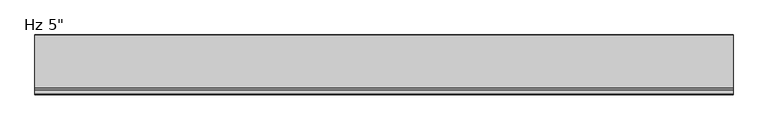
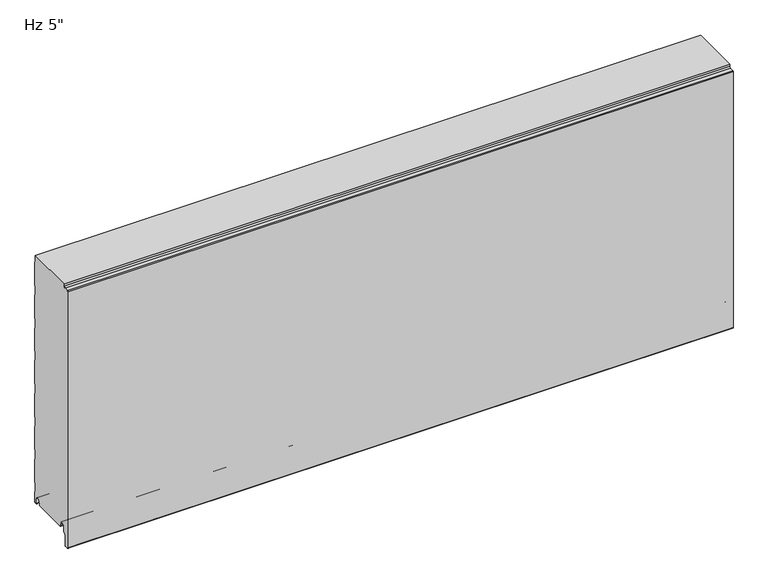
"""IFC4 building model written with IfcOpenShell, lengths in millimetres: plate geometry."""

from ifc_helpers import new_model, si_unit, frame, origin, place, context, project, spatial, polyline, circle_curve, source, transform, mapped, element, save
from ifc_brep_helpers import plane_surface, cylinder_surface, revolved_surface, advanced_brep


def plate_5629053f(model_context):
    return source(origin(), model_context, "Body", "AdvancedBrep", [
        advanced_brep(
        [(-730.0, -98.6708959, 1.0316999), (-730.0, -97.5014212, 2.2328239), (-730.0, -97.5014212, 5.9912173), (-730.0, -98.8999001, 5.9912173), (-730.0, -98.8999001, 8.6903283), (-730.0, -102.2498954, 12.0403236), (-730.0, -106.6498866, 12.0403236), (-730.0, -109.9998819, 8.6903283), (-730.0, -109.9998819, -3.1205608), (-730.0, -110.4977988, -4.3226385), (-730.0, -115.9998699, -9.8247096), (-730.0, -115.9998699, -31.9198392), (-730.0, -118.2184719, -34.5765709), (-730.0, -123.2002927, -35.0125699), (-730.0, -125.9946177, -32.4521176), (-730.0, -126.0000209, 561.115622), (-730.0, -124.2149468, 563.0669057), (-730.0, -115.75397, 563.821161), (-730.0, -112.9906671, 566.9653654), (-730.0, -112.9906671, 571.2), (-730.0, -2.2002516, 571.2), (-730.0, -2.2002516, 555.8186019), (-730.0, -1.0000209, 554.4329689), (-730.0, -1.0000209, 500.3795535), (-730.0, -2.2002516, 498.9939206), (-730.0, -2.2002516, 479.6187543), (-730.0, -1.0000209, 478.2331213), (-730.0, -1.0000209, 424.1797059), (-730.0, -2.2002516, 422.794073), (-730.0, -2.2002516, 403.4189067), (-730.0, -1.0000209, 402.0332737), (-730.0, -1.0000209, 347.9798583), (-730.0, -2.2002516, 346.5942254), (-730.0, -2.2002516, 327.2190591), (-730.0, -1.0000209, 325.8334261), (-730.0, -1.0000209, 271.7800107), (-730.0, -2.2002516, 270.3943778), (-730.0, -2.2002516, 251.0192115), (-730.0, -1.0000209, 249.6335785), (-730.0, -1.0000209, 195.5801631), (-730.0, -2.2002516, 194.1945302), (-730.0, -2.2002516, 174.8193639), (-730.0, -1.0000209, 173.4337309), (-730.0, -1.0000209, 119.3803155), (-730.0, -2.2002516, 117.9946826), (-730.0, -2.2002516, 98.6195163), (-730.0, -1.0000209, 97.2338833), (-730.0, -1.0000209, 43.1804679), (-730.0, -2.2002516, 41.794835), (-730.0, -2.2002516, 22.4196687), (-730.0, -1.0000126, 21.034026), (-730.0, -1.0000126, -3.4662506), (-730.0, -5.2315599, -3.4662506), (-730.0, -7.001554, -1.6962564), (-730.0, -7.001554, 8.7237222), (-730.0, -10.3015499, 12.023718), (-730.0, -14.7015411, 12.023718), (-730.0, -18.0015368, 8.7237223), (-730.0, -18.0015368, 6.0315125), (-730.0, -19.0015314, 6.0315125), (-730.0, -19.0015314, 2.0313089), (-730.0, -18.0015401, 1.0313117), (-730.0, -19.0328517, 0.0), (-730.0, -97.639196, 0.0), (730.0, -98.6708959, 1.0316999), (730.0, -97.639196, 0.0), (730.0, -19.0328517, 0.0), (730.0, -18.0015401, 1.0313117), (730.0, -19.0015314, 2.0313089), (730.0, -19.0015314, 6.0315125), (730.0, -18.0015368, 6.0315125), (730.0, -18.0015368, 8.7237223), (730.0, -14.7015411, 12.023718), (730.0, -10.3015499, 12.023718), (730.0, -7.001554, 8.7237222), (730.0, -7.001554, -1.6962564), (730.0, -5.2315599, -3.4662506), (730.0, -1.0000126, -3.4662506), (730.0, -1.0000126, 21.034026), (730.0, -2.2002516, 22.4196687), (730.0, -2.2002516, 41.794835), (730.0, -1.0000209, 43.1804679), (730.0, -1.0000209, 97.2338833), (730.0, -2.2002516, 98.6195163), (730.0, -2.2002516, 117.9946826), (730.0, -1.0000209, 119.3803155), (730.0, -1.0000209, 173.4337309), (730.0, -2.2002516, 174.8193639), (730.0, -2.2002516, 194.1945302), (730.0, -1.0000209, 195.5801631), (730.0, -1.0000209, 249.6335785), (730.0, -2.2002516, 251.0192115), (730.0, -2.2002516, 270.3943778), (730.0, -1.0000209, 271.7800107), (730.0, -1.0000209, 325.8334261), (730.0, -2.2002516, 327.2190591), (730.0, -2.2002516, 346.5942254), (730.0, -1.0000209, 347.9798583), (730.0, -1.0000209, 402.0332737), (730.0, -2.2002516, 403.4189067), (730.0, -2.2002516, 422.794073), (730.0, -1.0000209, 424.1797059), (730.0, -1.0000209, 478.2331213), (730.0, -2.2002516, 479.6187543), (730.0, -2.2002516, 498.9939206), (730.0, -1.0000209, 500.3795535), (730.0, -1.0000209, 554.4329689), (730.0, -2.2002516, 555.8186019), (730.0, -2.2002516, 571.2), (730.0, -112.9906671, 571.2), (730.0, -112.9906671, 566.9653654), (730.0, -115.75397, 563.821161), (730.0, -124.2149468, 563.0669057), (730.0, -126.0000209, 561.115622), (730.0, -126.0000209, -32.4521176), (730.0, -123.2002927, -35.0125699), (730.0, -118.2184719, -34.5765709), (730.0, -115.9998699, -31.9198392), (730.0, -115.9998699, -9.8247096), (730.0, -110.4977988, -4.3226385), (730.0, -109.9998819, -3.1205608), (730.0, -109.9998819, 8.6903283), (730.0, -106.6498866, 12.0403236), (730.0, -102.2498954, 12.0403236), (730.0, -98.8999001, 8.6903283), (730.0, -98.8999001, 5.9912173), (730.0, -97.5014212, 5.9912173), (730.0, -97.5014212, 2.2328239)],
        [
            (0, 1, circle_curve(frame((-730.0, -98.7014178, 2.2313092), z_axis=(1.0, 0.0, 0.0), x_axis=(0.0, 0.0, -1.0)), 1.1999976)),
            (1, 2),
            (2, 3),
            (3, 4),
            (4, 5, circle_curve(frame((-730.0, -102.2498954, 8.6903283), z_axis=(1.0, 0.0, 0.0), x_axis=(0.0, 0.0, -1.0)), 3.3499953)),
            (5, 6),
            (6, 7, circle_curve(frame((-730.0, -106.6498866, 8.6903283), z_axis=(1.0, 0.0, 0.0), x_axis=(0.0, 0.0, -1.0)), 3.3499953)),
            (7, 8),
            (8, 9, circle_curve(frame((-730.0, -111.6998765, -3.1205608), z_axis=(-1.0, 0.0, 0.0), x_axis=(0.0, 0.0, -1.0)), 1.6999946)),
            (9, 10),
            (10, 11),
            (11, 12, circle_curve(frame((-730.0, -118.6998625, -31.9198392), z_axis=(-1.0, 0.0, 0.0), x_axis=(0.0, 0.0, -1.0)), 2.6999926)),
            (12, 13),
            (13, 14, circle_curve(frame((-730.0, -123.4243784, -32.4521176), z_axis=(-1.0, 0.0, 0.0), x_axis=(0.0, 0.0, -1.0)), 2.5702393)),
            (14, 15),
            (15, 16, circle_curve(frame((-730.0, -124.0409993, 561.115622), z_axis=(-1.0, 0.0, 0.0), x_axis=(0.0, 0.0, -1.0)), 1.9590216)),
            (16, 17),
            (17, 18, circle_curve(frame((-730.0, -116.018053, 566.8396267), z_axis=(1.0, 0.0, 0.0), x_axis=(0.0, 0.0, -1.0)), 3.0299959)),
            (18, 19),
            (19, 20),
            (20, 21),
            (21, 22),
            (22, 23),
            (23, 24),
            (24, 25),
            (25, 26),
            (26, 27),
            (27, 28),
            (28, 29),
            (29, 30),
            (30, 31),
            (31, 32),
            (32, 33),
            (33, 34),
            (34, 35),
            (35, 36),
            (36, 37),
            (37, 38),
            (38, 39),
            (39, 40),
            (40, 41),
            (41, 42),
            (42, 43),
            (43, 44),
            (44, 45),
            (45, 46),
            (46, 47),
            (47, 48),
            (48, 49),
            (49, 50),
            (50, 51),
            (51, 52),
            (52, 53, circle_curve(frame((-730.0, -5.2315599, -1.6962564), z_axis=(-1.0, 0.0, 0.0), x_axis=(0.0, 0.0, 1.0)), 1.7699942)),
            (53, 54),
            (54, 55, circle_curve(frame((-730.0, -10.3015499, 8.7237222), z_axis=(1.0, 0.0, 0.0), x_axis=(0.0, 0.0, 1.0)), 3.2999959)),
            (55, 56),
            (56, 57, circle_curve(frame((-730.0, -14.7015411, 8.7237223), z_axis=(1.0, 0.0, 0.0), x_axis=(0.0, 0.0, 1.0)), 3.2999957)),
            (57, 58),
            (58, 59),
            (59, 60),
            (60, 61, circle_curve(frame((-730.0, -18.0015342, 2.0313089), z_axis=(1.0, 0.0, 0.0), x_axis=(0.0, 0.0, 1.0)), 0.9999972)),
            (61, 62),
            (62, 63),
            (63, 0),
            (64, 65),
            (65, 66),
            (66, 67),
            (67, 68, circle_curve(frame((730.0, -18.0015342, 2.0313089), z_axis=(-1.0, 0.0, 0.0), x_axis=(0.0, 0.0, 1.0)), 0.9999972)),
            (68, 69),
            (69, 70),
            (70, 71),
            (71, 72, circle_curve(frame((730.0, -14.7015411, 8.7237223), z_axis=(-1.0, 0.0, 0.0), x_axis=(0.0, 0.0, 1.0)), 3.2999957)),
            (72, 73),
            (73, 74, circle_curve(frame((730.0, -10.3015499, 8.7237222), z_axis=(-1.0, 0.0, 0.0), x_axis=(0.0, 0.0, 1.0)), 3.2999959)),
            (74, 75),
            (75, 76, circle_curve(frame((730.0, -5.2315599, -1.6962564), z_axis=(1.0, 0.0, 0.0), x_axis=(0.0, 0.0, 1.0)), 1.7699942)),
            (76, 77),
            (77, 78),
            (78, 79),
            (79, 80),
            (80, 81),
            (81, 82),
            (82, 83),
            (83, 84),
            (84, 85),
            (85, 86),
            (86, 87),
            (87, 88),
            (88, 89),
            (89, 90),
            (90, 91),
            (91, 92),
            (92, 93),
            (93, 94),
            (94, 95),
            (95, 96),
            (96, 97),
            (97, 98),
            (98, 99),
            (99, 100),
            (100, 101),
            (101, 102),
            (102, 103),
            (103, 104),
            (104, 105),
            (105, 106),
            (106, 107),
            (107, 108),
            (108, 109),
            (109, 110),
            (110, 111, circle_curve(frame((730.0, -116.018053, 566.8396267), z_axis=(-1.0, 0.0, 0.0), x_axis=(0.0, 0.0, -1.0)), 3.0299959)),
            (111, 112),
            (112, 113, circle_curve(frame((730.0, -124.0409993, 561.115622), z_axis=(1.0, 0.0, 0.0), x_axis=(0.0, 0.0, -1.0)), 1.9590216)),
            (113, 114),
            (114, 115, circle_curve(frame((730.0, -123.4243784, -32.4521176), z_axis=(1.0, 0.0, 0.0), x_axis=(0.0, 0.0, -1.0)), 2.5702393)),
            (115, 116),
            (116, 117, circle_curve(frame((730.0, -118.6998625, -31.9198392), z_axis=(1.0, 0.0, 0.0), x_axis=(0.0, 0.0, -1.0)), 2.6999926)),
            (117, 118),
            (118, 119),
            (119, 120, circle_curve(frame((730.0, -111.6998765, -3.1205608), z_axis=(1.0, 0.0, 0.0), x_axis=(0.0, 0.0, -1.0)), 1.6999946)),
            (120, 121),
            (121, 122, circle_curve(frame((730.0, -106.6498866, 8.6903283), z_axis=(-1.0, 0.0, 0.0), x_axis=(0.0, 0.0, -1.0)), 3.3499953)),
            (122, 123),
            (123, 124, circle_curve(frame((730.0, -102.2498954, 8.6903283), z_axis=(-1.0, 0.0, 0.0), x_axis=(0.0, 0.0, -1.0)), 3.3499953)),
            (124, 125),
            (125, 126),
            (126, 127),
            (127, 64, circle_curve(frame((730.0, -98.7014178, 2.2313092), z_axis=(-1.0, 0.0, 0.0), x_axis=(0.0, 0.0, -1.0)), 1.1999976)),
            (63, 65),
            (64, 0),
            (62, 66),
            (14, 114),
            (113, 15),
            (13, 115),
            (12, 116),
            (11, 117),
            (10, 118),
            (9, 119),
            (8, 120),
            (7, 121),
            (6, 122),
            (5, 123),
            (4, 124),
            (3, 125),
            (2, 126),
            (1, 127),
            (61, 67),
            (60, 68),
            (59, 69),
            (58, 70),
            (57, 71),
            (56, 72),
            (55, 73),
            (54, 74),
            (53, 75),
            (52, 76),
            (51, 77),
            (49, 79),
            (78, 50),
            (48, 80),
            (47, 81),
            (46, 82),
            (45, 83),
            (44, 84),
            (43, 85),
            (42, 86),
            (41, 87),
            (40, 88),
            (39, 89),
            (38, 90),
            (37, 91),
            (36, 92),
            (35, 93),
            (34, 94),
            (33, 95),
            (32, 96),
            (31, 97),
            (30, 98),
            (19, 109),
            (108, 20),
            (18, 110),
            (17, 111),
            (16, 112),
            (29, 99),
            (28, 100),
            (27, 101),
            (26, 102),
            (25, 103),
            (24, 104),
            (23, 105),
            (22, 106),
            (21, 107),
        ],
        [
            plane_surface(frame((-730.0, -126.0000209, 304.8), z_axis=(-1.0, 0.0, 0.0), x_axis=(0.0, -1.0, 0.0))),
            plane_surface(frame((730.0, -126.0000209, 304.8), z_axis=(1.0, 0.0, 0.0), x_axis=(0.0, -1.0, 0.0))),
            plane_surface(frame((-730.0, -98.6708959, 1.0316999), z_axis=(0.0, -0.7071067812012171, -0.707106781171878), x_axis=(1.0, 0.0, 0.0))),
            plane_surface(frame((-730.0, -97.639196, 0.0), z_axis=(0.0, 0.0, -1.0), x_axis=(1.0, 0.0, 0.0))),
            plane_surface(frame((-730.0, -126.0000209, 561.115622), z_axis=(0.0, -1.0, 0.0), x_axis=(1.0, 0.0, 0.0))),
            cylinder_surface(frame((-730.0, -123.4243784, -32.4521176), z_axis=(-1.0, 0.0, 0.0), x_axis=(0.0, 0.0, -1.0)), 2.5702393),
            plane_surface(frame((-730.0, -123.2002927, -35.0125699), z_axis=(0.0, 0.08718474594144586, -0.9961921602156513), x_axis=(1.0, 0.0, 0.0))),
            cylinder_surface(frame((-730.0, -118.6998625, -31.9198392), z_axis=(-1.0, 0.0, 0.0), x_axis=(0.0, 0.0, -1.0)), 2.6999926),
            plane_surface(frame((-730.0, -115.9998699, -31.9198392), z_axis=(0.0, 1.0, 0.0), x_axis=(1.0, 0.0, 0.0))),
            plane_surface(frame((-730.0, -115.9998699, -9.8247096), z_axis=(0.0, 0.7071067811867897, -0.7071067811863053), x_axis=(1.0, 0.0, 0.0))),
            cylinder_surface(frame((-730.0, -111.6998765, -3.1205608), z_axis=(-1.0, 0.0, 0.0), x_axis=(0.0, 0.0, -1.0)), 1.6999946),
            plane_surface(frame((-730.0, -109.9998819, -3.1205608), z_axis=(0.0, 1.0, 0.0), x_axis=(1.0, 0.0, 0.0))),
            revolved_surface(polyline([(730.0, -106.6498866, 5.340332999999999), (-730.0, -106.6498866, 5.340332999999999)]), (-730.0, -106.6498866, 8.6903283), (1.0, 0.0, 0.0)),
            plane_surface(frame((-730.0, -106.6498866, 12.0403236), z_axis=(0.0, 0.0, -1.0), x_axis=(1.0, 0.0, 0.0))),
            revolved_surface(polyline([(730.0, -102.2498954, 5.340332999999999), (-730.0, -102.2498954, 5.340332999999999)]), (-730.0, -102.2498954, 8.6903283), (1.0, 0.0, 0.0)),
            plane_surface(frame((-730.0, -98.8999001, 8.6903283), z_axis=(0.0, -1.0, 0.0), x_axis=(1.0, 0.0, 0.0))),
            plane_surface(frame((-730.0, -98.8999001, 5.9912173), z_axis=(0.0, 0.0, -1.0), x_axis=(1.0, 0.0, 0.0))),
            plane_surface(frame((-730.0, -97.5014212, 5.9912173), z_axis=(0.0, -1.0, 0.0), x_axis=(1.0, 0.0, 0.0))),
            revolved_surface(polyline([(730.0, -98.7014178, 1.0313116), (-730.0, -98.7014178, 1.0313116)]), (-730.0, -98.7014178, 2.2313092), (1.0, 0.0, 0.0)),
            plane_surface(frame((-730.0, -19.0328517, 0.0), z_axis=(0.0, 0.7071067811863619, -0.7071067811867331), x_axis=(1.0, 0.0, 0.0))),
            revolved_surface(polyline([(730.0, -18.0015342, 3.0313061), (-730.0, -18.0015342, 3.0313061)]), (-730.0, -18.0015342, 2.0313089), (1.0, 0.0, 0.0)),
            plane_surface(frame((-730.0, -19.0015314, 2.0313089), z_axis=(0.0, 1.0, 0.0), x_axis=(1.0, 0.0, 0.0))),
            plane_surface(frame((-730.0, -19.0015314, 6.0315125), z_axis=(0.0, 0.0, -1.0), x_axis=(1.0, 0.0, 0.0))),
            plane_surface(frame((-730.0, -18.0015368, 6.0315125), z_axis=(0.0, 1.0, 0.0), x_axis=(1.0, 0.0, 0.0))),
            revolved_surface(polyline([(730.0, -14.7015411, 12.023718), (-730.0, -14.7015411, 12.023718)]), (-730.0, -14.7015411, 8.7237223), (1.0, 0.0, 0.0)),
            plane_surface(frame((-730.0, -14.7015411, 12.023718), z_axis=(0.0, 0.0, -1.0), x_axis=(1.0, 0.0, 0.0))),
            revolved_surface(polyline([(730.0, -10.3015499, 12.0237181), (-730.0, -10.3015499, 12.0237181)]), (-730.0, -10.3015499, 8.7237222), (1.0, 0.0, 0.0)),
            plane_surface(frame((-730.0, -7.001554, 8.7237222), z_axis=(0.0, -1.0, 0.0), x_axis=(1.0, 0.0, 0.0))),
            cylinder_surface(frame((-730.0, -5.2315599, -1.6962564), z_axis=(-1.0, 0.0, 0.0), x_axis=(0.0, 0.0, 1.0)), 1.7699942),
            plane_surface(frame((-730.0, -5.2315599, -3.4662506), z_axis=(0.0, 0.0, -1.0), x_axis=(1.0, 0.0, 0.0))),
            plane_surface(frame((-730.0, -1.0000126, 21.034026), z_axis=(0.0, 0.7558648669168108, 0.6547276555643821), x_axis=(1.0, 0.0, 0.0))),
            plane_surface(frame((-730.0, -1.0000126, -3.4662506), z_axis=(0.0, 1.0, 0.0), x_axis=(1.0, 0.0, 0.0))),
            plane_surface(frame((-730.0, -2.2002516, 22.4196687), z_axis=(0.0, 1.0, 0.0), x_axis=(1.0, 0.0, 0.0))),
            plane_surface(frame((-730.0, -2.2002516, 41.794835), z_axis=(0.0, 0.7558648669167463, -0.6547276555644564), x_axis=(1.0, 0.0, 0.0))),
            plane_surface(frame((-730.0, -1.0000209, 43.1804679), z_axis=(0.0, 1.0, 0.0), x_axis=(1.0, 0.0, 0.0))),
            plane_surface(frame((-730.0, -1.0000209, 97.2338833), z_axis=(0.0, 0.7558648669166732, 0.6547276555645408), x_axis=(1.0, 0.0, 0.0))),
            plane_surface(frame((-730.0, -2.2002516, 98.6195163), z_axis=(0.0, 1.0, 0.0), x_axis=(1.0, 0.0, 0.0))),
            plane_surface(frame((-730.0, -2.2002516, 117.9946826), z_axis=(0.0, 0.7558648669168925, -0.6547276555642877), x_axis=(1.0, 0.0, 0.0))),
            plane_surface(frame((-730.0, -1.0000209, 119.3803155), z_axis=(0.0, 1.0, 0.0), x_axis=(1.0, 0.0, 0.0))),
            plane_surface(frame((-730.0, -1.0000209, 173.4337309), z_axis=(0.0, 0.7558648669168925, 0.6547276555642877), x_axis=(1.0, 0.0, 0.0))),
            plane_surface(frame((-730.0, -2.2002516, 174.8193639), z_axis=(0.0, 1.0, 0.0), x_axis=(1.0, 0.0, 0.0))),
            plane_surface(frame((-730.0, -2.2002516, 194.1945302), z_axis=(0.0, 0.7558648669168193, -0.6547276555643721), x_axis=(1.0, 0.0, 0.0))),
            plane_surface(frame((-730.0, -1.0000209, 195.5801631), z_axis=(0.0, 1.0, 0.0), x_axis=(1.0, 0.0, 0.0))),
            plane_surface(frame((-730.0, -1.0000209, 249.6335785), z_axis=(0.0, 0.7558648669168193, 0.6547276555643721), x_axis=(1.0, 0.0, 0.0))),
            plane_surface(frame((-730.0, -2.2002516, 251.0192115), z_axis=(0.0, 1.0, 0.0), x_axis=(1.0, 0.0, 0.0))),
            plane_surface(frame((-730.0, -2.2002516, 270.3943778), z_axis=(0.0, 0.7558648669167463, -0.6547276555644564), x_axis=(1.0, 0.0, 0.0))),
            plane_surface(frame((-730.0, -1.0000209, 271.7800107), z_axis=(0.0, 1.0, 0.0), x_axis=(1.0, 0.0, 0.0))),
            plane_surface(frame((-730.0, -1.0000209, 325.8334261), z_axis=(0.0, 0.7558648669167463, 0.6547276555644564), x_axis=(1.0, 0.0, 0.0))),
            plane_surface(frame((-730.0, -2.2002516, 327.2190591), z_axis=(0.0, 1.0, 0.0), x_axis=(1.0, 0.0, 0.0))),
            plane_surface(frame((-730.0, -2.2002516, 346.5942254), z_axis=(0.0, 0.7558648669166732, -0.6547276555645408), x_axis=(1.0, 0.0, 0.0))),
            plane_surface(frame((-730.0, -1.0000209, 347.9798583), z_axis=(0.0, 1.0, 0.0), x_axis=(1.0, 0.0, 0.0))),
            plane_surface(frame((730.0, 9.9999791, 571.2), z_axis=(0.0, 0.0, 1.0), x_axis=(-1.0, 0.0, 0.0))),
            plane_surface(frame((-730.0, -112.9906671, 577.0583308), z_axis=(0.0, -1.0, 0.0), x_axis=(1.0, 0.0, 0.0))),
            revolved_surface(polyline([(730.0, -116.018053, 563.8096308), (-730.0, -116.018053, 563.8096308)]), (-730.0, -116.018053, 566.8396267), (1.0, 0.0, 0.0)),
            plane_surface(frame((-730.0, -115.75397, 563.821161), z_axis=(0.0, -0.08879306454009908, 0.9960500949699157), x_axis=(1.0, 0.0, 0.0))),
            cylinder_surface(frame((-730.0, -124.0409993, 561.115622), z_axis=(-1.0, 0.0, 0.0), x_axis=(0.0, 0.0, -1.0)), 1.9590216),
            plane_surface(frame((-730.0, -1.0000209, 402.0332737), z_axis=(0.0, 0.7558648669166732, 0.6547276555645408), x_axis=(1.0, 0.0, 0.0))),
            plane_surface(frame((-730.0, -2.2002516, 403.4189067), z_axis=(0.0, 1.0, 0.0), x_axis=(1.0, 0.0, 0.0))),
            plane_surface(frame((-730.0, -2.2002516, 422.794073), z_axis=(0.0, 0.755864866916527, -0.6547276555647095), x_axis=(1.0, 0.0, 0.0))),
            plane_surface(frame((-730.0, -1.0000209, 424.1797059), z_axis=(0.0, 1.0, 0.0), x_axis=(1.0, 0.0, 0.0))),
            plane_surface(frame((-730.0, -1.0000209, 478.2331213), z_axis=(0.0, 0.755864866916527, 0.6547276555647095), x_axis=(1.0, 0.0, 0.0))),
            plane_surface(frame((-730.0, -2.2002516, 479.6187543), z_axis=(0.0, 1.0, 0.0), x_axis=(1.0, 0.0, 0.0))),
            plane_surface(frame((-730.0, -2.2002516, 498.9939206), z_axis=(0.0, 0.755864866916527, -0.6547276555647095), x_axis=(1.0, 0.0, 0.0))),
            plane_surface(frame((-730.0, -1.0000209, 500.3795535), z_axis=(0.0, 1.0, 0.0), x_axis=(1.0, 0.0, 0.0))),
            plane_surface(frame((-730.0, -1.0000209, 554.4329689), z_axis=(0.0, 0.755864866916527, 0.6547276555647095), x_axis=(1.0, 0.0, 0.0))),
            plane_surface(frame((-730.0, -2.2002516, 555.8186019), z_axis=(0.0, 1.0, 0.0), x_axis=(1.0, 0.0, 0.0))),
        ],
        [
            (0, [[1, 2, 3, 4, 5, 6, 7, 8, 9, 10, 11, 12, 13, 14, 15, 16, 17, 18, 19, 20, 21, 22, 23, 24, 25, 26, 27, 28, 29, 30, 31, 32, 33, 34, 35, 36, 37, 38, 39, 40, 41, 42, 43, 44, 45, 46, 47, 48, 49, 50, 51, 52, 53, 54, 55, 56, 57, 58, 59, 60, 61, 62, 63, 64]]),
            (1, [[65, 66, 67, 68, 69, 70, 71, 72, 73, 74, 75, 76, 77, 78, 79, 80, 81, 82, 83, 84, 85, 86, 87, 88, 89, 90, 91, 92, 93, 94, 95, 96, 97, 98, 99, 100, 101, 102, 103, 104, 105, 106, 107, 108, 109, 110, 111, 112, 113, 114, 115, 116, 117, 118, 119, 120, 121, 122, 123, 124, 125, 126, 127, 128]]),
            (2, [[129, -65, 130, -64]]),
            (3, [[-63, 131, -66, -129]]),
            (4, [[132, -114, 133, -15]]),
            (5, [[134, -115, -132, -14]]),
            (6, [[135, -116, -134, -13]]),
            (7, [[136, -117, -135, -12]]),
            (8, [[137, -118, -136, -11]]),
            (9, [[138, -119, -137, -10]]),
            (10, [[139, -120, -138, -9]]),
            (11, [[140, -121, -139, -8]]),
            (12, [[141, -122, -140, -7]]),
            (13, [[142, -123, -141, -6]]),
            (14, [[143, -124, -142, -5]]),
            (15, [[144, -125, -143, -4]]),
            (16, [[145, -126, -144, -3]]),
            (17, [[146, -127, -145, -2]]),
            (18, [[-130, -128, -146, -1]]),
            (19, [[147, -67, -131, -62]]),
            (20, [[148, -68, -147, -61]]),
            (21, [[149, -69, -148, -60]]),
            (22, [[150, -70, -149, -59]]),
            (23, [[151, -71, -150, -58]]),
            (24, [[152, -72, -151, -57]]),
            (25, [[153, -73, -152, -56]]),
            (26, [[154, -74, -153, -55]]),
            (27, [[155, -75, -154, -54]]),
            (28, [[156, -76, -155, -53]]),
            (29, [[157, -77, -156, -52]]),
            (30, [[158, -79, 159, -50]]),
            (31, [[-159, -78, -157, -51]]),
            (32, [[160, -80, -158, -49]]),
            (33, [[161, -81, -160, -48]]),
            (34, [[162, -82, -161, -47]]),
            (35, [[163, -83, -162, -46]]),
            (36, [[164, -84, -163, -45]]),
            (37, [[165, -85, -164, -44]]),
            (38, [[166, -86, -165, -43]]),
            (39, [[167, -87, -166, -42]]),
            (40, [[168, -88, -167, -41]]),
            (41, [[169, -89, -168, -40]]),
            (42, [[170, -90, -169, -39]]),
            (43, [[171, -91, -170, -38]]),
            (44, [[172, -92, -171, -37]]),
            (45, [[173, -93, -172, -36]]),
            (46, [[174, -94, -173, -35]]),
            (47, [[175, -95, -174, -34]]),
            (48, [[176, -96, -175, -33]]),
            (49, [[177, -97, -176, -32]]),
            (50, [[178, -98, -177, -31]]),
            (51, [[179, -109, 180, -20]]),
            (52, [[-110, -179, -19, 181]]),
            (53, [[182, -111, -181, -18]]),
            (54, [[183, -112, -182, -17]]),
            (55, [[-133, -113, -183, -16]]),
            (56, [[184, -99, -178, -30]]),
            (57, [[185, -100, -184, -29]]),
            (58, [[186, -101, -185, -28]]),
            (59, [[187, -102, -186, -27]]),
            (60, [[188, -103, -187, -26]]),
            (61, [[189, -104, -188, -25]]),
            (62, [[190, -105, -189, -24]]),
            (63, [[191, -106, -190, -23]]),
            (64, [[192, -107, -191, -22]]),
            (65, [[-21, -180, -108, -192]]),
        ],
    ),
    ])


if __name__ == "__main__":
    model = new_model("IFC4")
    model_context = context("Model", 3, world=origin())
    ifc_project = project(units=[si_unit("LENGTHUNIT", "METRE", prefix="MILLI")], contexts=[model_context])
    site = spatial("IfcSite", under=ifc_project)
    building = spatial("IfcBuilding", under=site)
    placement = place(None, origin())
    plate_shape = plate_5629053f(model_context)
    element("IfcPlate", 1, ObjectType="KIP-24-Karrier-KP-R19-CP-Hz-FL3-8in_SL : Hz 5\"", at=placement, inside=building, context=model_context, shape_type="MappedRepresentation", body=[
        mapped(plate_shape, transform((0.0, 0.0, 0.0), x_axis=(1.0, 0.0, 0.0), y_axis=(0.0, 1.0, 0.0), z_axis=(0.0, 0.0, 1.0))),
    ])
    save(model, "model.ifc")
